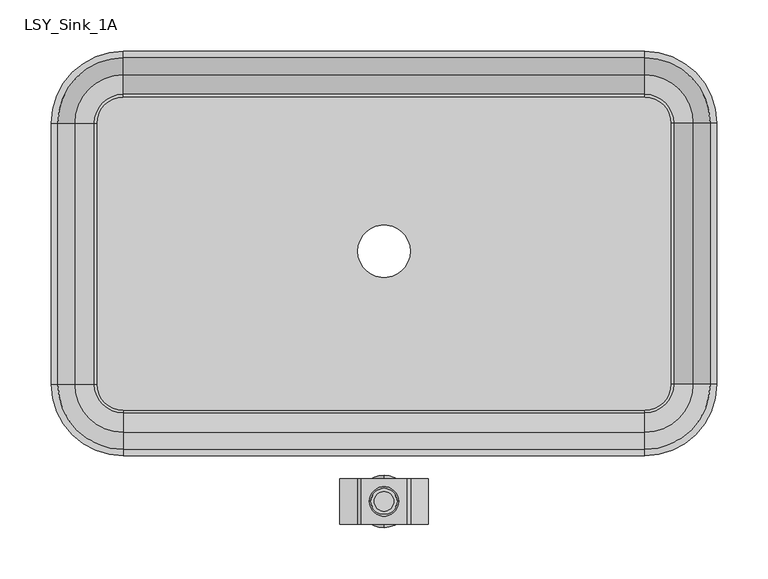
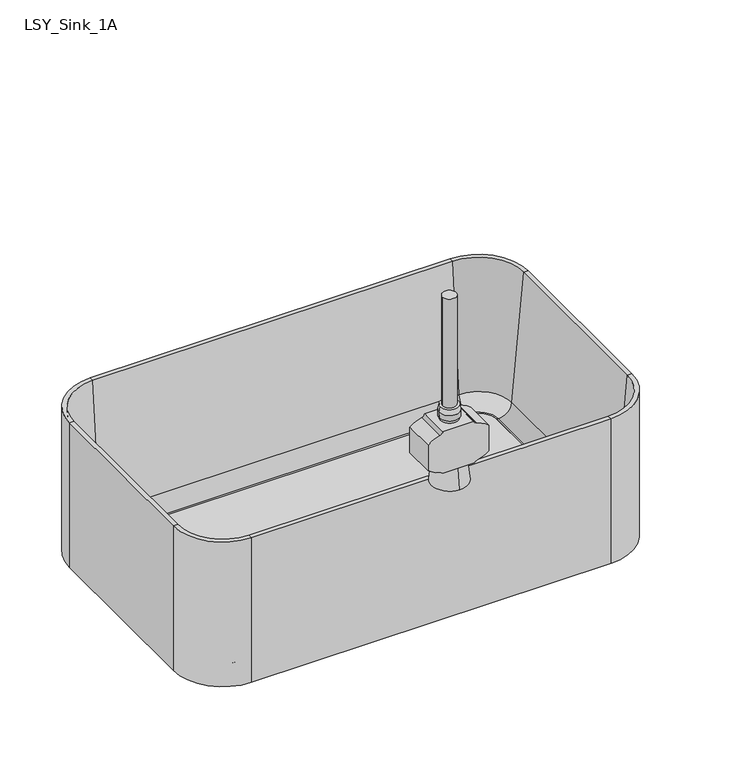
"""IFC4 building model written with IfcOpenShell, lengths in millimetres: flow terminal geometry."""

from ifc_helpers import new_model, si_unit, point, frame, frame_2d, origin, place, context, project, spatial, polyline, circle_curve, ellipse_curve, trimmed, segment, composite_curve, outline, extrude, source, transform, mapped, element, save
from ifc_brep_helpers import plane_surface, cylinder_surface, revolved_surface, advanced_brep


def lsy_sink_1a_83b20bf5(model_context):
    return source(origin(), model_context, "Body", "SolidModel", [
        advanced_brep(
        [(29.9767406, -145.2204011, 1036.6375), (1.4017406, -145.2204011, 1036.6375), (29.9767406, -145.2204011, 1044.575), (1.4017406, -145.2204011, 1044.575), (28.3892406, -145.2204011, 1052.5125), (2.9892406, -145.2204011, 1052.5125)],
        [
            (0, 1, circle_curve(frame((15.6892406, -145.2204011, 1036.6375), z_axis=(0.0, 0.0, -1.0), x_axis=(-1.0, 0.0, 0.0)), 14.2875)),
            (1, 0, circle_curve(frame((15.6892406, -145.2204011, 1036.6375), z_axis=(0.0, 0.0, -1.0), x_axis=(-1.0, 0.0, 0.0)), 14.2875)),
            (0, 2),
            (2, 3, circle_curve(frame((15.6892406, -145.2204011, 1044.575), z_axis=(0.0, 0.0, -1.0), x_axis=(-1.0, 0.0, 0.0)), 14.2875)),
            (3, 1),
            (3, 2, circle_curve(frame((15.6892406, -145.2204011, 1044.575), z_axis=(0.0, 0.0, -1.0), x_axis=(-1.0, 0.0, 0.0)), 14.2875)),
            (4, 5, circle_curve(frame((15.6892406, -145.2204011, 1052.5125), z_axis=(0.0, 0.0, 1.0), x_axis=(-1.0, 0.0, 0.0)), 12.7)),
            (5, 4, circle_curve(frame((15.6892406, -145.2204011, 1052.5125), z_axis=(0.0, 0.0, 1.0), x_axis=(1.0, 0.0, 0.0)), 12.7)),
            (5, 3),
            (2, 4),
        ],
        [
            plane_surface(frame((1.4017406, -145.2204011, 1036.6375), z_axis=(0.0, 0.0, -1.0), x_axis=(0.0, -1.0, 0.0))),
            cylinder_surface(frame((15.6892406, -145.2204011, 1036.6375), z_axis=(0.0, 0.0, 1.0), x_axis=(-1.0, 0.0, 0.0)), 14.2875),
            plane_surface(frame((15.6892406, -145.2204011, 1052.5125), z_axis=(0.0, 0.0, 1.0), x_axis=(0.0, -1.0, 0.0))),
            revolved_surface(polyline([(2.9892406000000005, -145.2204011, 1052.5125), (1.4017406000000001, -145.2204011, 1044.575)]), (15.6892406, -145.2204011, 1116.0125), (0.0, 0.0, -1.0)),
            revolved_surface(polyline([(28.3892406, -145.2204011, 1052.5125), (29.9767406, -145.2204011, 1044.575)]), (15.6892406, -145.2204011, 1116.0125), (0.0, 0.0, -1.0)),
        ],
        [
            (0, [[1, 2]]),
            (1, [[3, 4, 5, -1]]),
            (1, [[-5, 6, -3, -2]]),
            (2, [[7, 8]]),
            (3, [[9, -4, 10, -8]]),
            (4, [[-10, -6, -9, -7]]),
        ],
    ),
        extrude(outline(composite_curve([segment(trimmed(circle_curve(frame_2d((1032.4850081, -11.5210533)), 5.0159468), [point((1031.875, -6.5423374))], [point((1027.6006878, -10.3795029))], True, "CARTESIAN"), True, "CONTINUOUS"), segment(trimmed(circle_curve(frame_2d((988.3820284, -1.2134213)), 40.2755546), [point((1027.6006878, -10.3795029))], [point((1019.175, -27.1732594))], False, "CARTESIAN"), True, "CONTINUOUS"), segment(polyline([(1019.175, -27.1732594), (981.075, -27.1732594)]), True, "CONTINUOUS"), segment(trimmed(circle_curve(frame_2d((1011.8679716, -1.2134213)), 40.2755546), [point((981.075, -27.1732594))], [point((972.6493122, -10.3795029))], False, "CARTESIAN"), True, "CONTINUOUS"), segment(trimmed(circle_curve(frame_2d((966.5200388, -11.8120204)), 6.2944498), [point((972.6493122, -10.3795029))], [point((969.9625, -6.5423374))], True, "CARTESIAN"), True, "CONTINUOUS"), segment(polyline([(969.9625, -6.5423374), (969.9625, 37.9208185)]), True, "CONTINUOUS"), segment(trimmed(circle_curve(frame_2d((966.5200388, 43.1905016)), 6.2944498), [point((969.9625, 37.9208185))], [point((972.6493122, 41.757984))], True, "CARTESIAN"), True, "CONTINUOUS"), segment(trimmed(circle_curve(frame_2d((1011.8679716, 32.5919024)), 40.2755546), [point((972.6493122, 41.757984))], [point((981.075, 58.5517406))], False, "CARTESIAN"), True, "CONTINUOUS"), segment(polyline([(981.075, 58.5517406), (1019.175, 58.5517406)]), True, "CONTINUOUS"), segment(trimmed(circle_curve(frame_2d((988.3820284, 32.5919024)), 40.2755546), [point((1019.175, 58.5517406))], [point((1027.6006878, 41.757984))], False, "CARTESIAN"), True, "CONTINUOUS"), segment(trimmed(circle_curve(frame_2d((1032.4850081, 42.8995344)), 5.0159468), [point((1027.6006878, 41.757984))], [point((1031.875, 37.9208185))], True, "CARTESIAN"), True, "CONTINUOUS"), segment(polyline([(1031.875, 37.9208185), (1031.875, -6.5423374)]), True, "CONTINUOUS")], self_intersect=False)), frame((0.0, -167.4154143, 0.0), z_axis=(0.0, 1.0, 0.0), x_axis=(0.0, 0.0, 1.0)), (0.0, 0.0, 1.0), 44.3900263),
        advanced_brep(
        [(15.6892406, -122.9654143, 969.9625), (15.6892406, -167.4154143, 969.9625), (15.6892406, -119.7904143, 939.8), (15.6892406, -170.5904143, 939.8)],
        [
            (0, 1, circle_curve(frame((15.6892406, -145.1904143, 969.9625), z_axis=(0.0, 0.0, 1.0), x_axis=(0.0, -1.0, 0.0)), 22.225)),
            (1, 0, circle_curve(frame((15.6892406, -145.1904143, 969.9625), z_axis=(0.0, 0.0, 1.0), x_axis=(0.0, 1.0, 0.0)), 22.225)),
            (2, 3, circle_curve(frame((15.6892406, -145.1904143, 939.8), z_axis=(0.0, 0.0, -1.0), x_axis=(0.0, 1.0, 0.0)), 25.4)),
            (3, 2, circle_curve(frame((15.6892406, -145.1904143, 939.8), z_axis=(0.0, 0.0, -1.0), x_axis=(0.0, -1.0, 0.0)), 25.4)),
            (2, 0),
            (1, 3),
        ],
        [
            plane_surface(frame((15.6892406, -145.1904143, 969.9625), z_axis=(0.0, 0.0, 1.0), x_axis=(1.0, 0.0, 0.0))),
            plane_surface(frame((15.6892406, -145.1904143, 939.8), z_axis=(0.0, 0.0, -1.0), x_axis=(1.0, 0.0, 0.0))),
            revolved_surface(polyline([(15.6892406, -122.96541429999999, 969.9625), (15.6892406, -119.7904143, 939.8)]), (15.6892406, -145.1904143, 1181.1), (0.0, 0.0, -1.0)),
            revolved_surface(polyline([(15.6892406, -167.41541429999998, 969.9625), (15.6892406, -170.5904143, 939.8)]), (15.6892406, -145.1904143, 1181.1), (0.0, 0.0, -1.0)),
        ],
        [
            (0, [[1, 2]]),
            (1, [[3, 4]]),
            (2, [[5, -2, 6, -3]]),
            (3, [[-6, -1, -5, -4]]),
        ],
    ),
        extrude(outline(composite_curve([segment(trimmed(circle_curve(frame_2d((15.6892406, -145.2204011)), 12.7), [point((28.3892406, -145.2204011))], [point((2.9892406, -145.2204011))], False, "CARTESIAN"), True, "CONTINUOUS"), segment(trimmed(circle_curve(frame_2d((15.6892406, -145.2204011)), 12.7), [point((2.9892406, -145.2204011))], [point((28.3892406, -145.2204011))], False, "CARTESIAN"), True, "CONTINUOUS")], self_intersect=False)), frame((0.0, 0.0, 1031.875), z_axis=(0.0, 0.0, 1.0), x_axis=(1.0, 0.0, 0.0)), (0.0, 0.0, 1.0), 4.7625),
        extrude(outline(composite_curve([segment(trimmed(circle_curve(frame_2d((15.6892406, -145.2204011)), 9.525), [point((25.2142406, -145.2204011))], [point((6.1642406, -145.2204011))], False, "CARTESIAN"), True, "CONTINUOUS"), segment(trimmed(circle_curve(frame_2d((15.6892406, -145.2204011)), 9.525), [point((6.1642406, -145.2204011))], [point((25.2142406, -145.2204011))], False, "CARTESIAN"), True, "CONTINUOUS")], self_intersect=False)), frame((0.0, 0.0, 1052.5125), z_axis=(0.0, 0.0, 1.0), x_axis=(1.0, 0.0, 0.0)), (0.0, 0.0, 1.0), 162.7114243),
        extrude(outline(composite_curve([segment(polyline([(269.6892406, -56.3204011), (-238.3107594, -56.3204011)]), True, "CONTINUOUS"), segment(trimmed(circle_curve(frame_2d((-238.3107594, -30.9204011)), 25.4), [point((-238.3107594, -56.3204011))], [point((-263.7107594, -30.9204011))], False, "CARTESIAN"), True, "CONTINUOUS"), segment(polyline([(-263.7107594, -30.9204011), (-263.7107594, 223.0795989)]), True, "CONTINUOUS"), segment(trimmed(circle_curve(frame_2d((-238.3107594, 223.0795989)), 25.4), [point((-263.7107594, 223.0795989))], [point((-238.3107594, 248.4795989))], False, "CARTESIAN"), True, "CONTINUOUS"), segment(polyline([(-238.3107594, 248.4795989), (269.6892406, 248.4795989)]), True, "CONTINUOUS"), segment(trimmed(circle_curve(frame_2d((269.6892406, 223.0795989)), 25.4), [point((269.6892406, 248.4795989))], [point((295.0892406, 223.0795989))], False, "CARTESIAN"), True, "CONTINUOUS"), segment(polyline([(295.0892406, 223.0795989), (295.0892406, -30.9204011)]), True, "CONTINUOUS"), segment(trimmed(circle_curve(frame_2d((269.6892406, -30.9204011)), 25.4), [point((295.0892406, -30.9204011))], [point((269.6892406, -56.3204011))], False, "CARTESIAN"), True, "CONTINUOUS")], self_intersect=False), holes=[composite_curve([segment(trimmed(circle_curve(frame_2d((15.6892406, 98.425)), 25.4), [point((-9.7107594, 98.425))], [point((41.0892406, 98.425))], True, "CARTESIAN"), True, "CONTINUOUS"), segment(trimmed(circle_curve(frame_2d((15.6892406, 98.425)), 25.4), [point((41.0892406, 98.425))], [point((-9.7107594, 98.425))], True, "CARTESIAN"), True, "CONTINUOUS")], self_intersect=False)]), frame((0.0, 0.0, 698.5), z_axis=(0.0, 0.0, 1.0), x_axis=(1.0, 0.0, 0.0)), (0.0, 0.0, 1.0), 9.525),
        advanced_brep(
        [(339.5392406, -30.9204011, 698.5), (339.5392406, -30.9204011, 914.4), (269.6892406, -100.7704011, 914.4), (269.6892406, -100.7704011, 698.5), (295.0892406, -30.9204011, 698.5), (269.6892406, -56.3204011, 698.5), (295.0892406, -30.9204011, 708.025), (269.6892406, -56.3204011, 708.025), (297.6776588, -30.9204011, 708.025), (269.6892406, -58.9088193, 708.025), (316.6551678, -30.9204011, 725.4146831), (269.6892406, -77.8863283, 725.4146831), (333.1892406, -30.9204011, 914.4), (269.6892406, -94.4204011, 914.4), (339.5392406, 223.0795989, 698.5), (339.5392406, 223.0795989, 914.4), (295.0892406, 223.0795989, 698.5), (295.0892406, 223.0795989, 708.025), (297.6776588, 223.0795989, 708.025), (316.6551678, 223.0795989, 725.4146831), (333.1892406, 223.0795989, 914.4), (269.6892406, 292.9295989, 698.5), (269.6892406, 292.9295989, 914.4), (269.6892406, 248.4795989, 698.5), (269.6892406, 248.4795989, 708.025), (269.6892406, 251.0680171, 708.025), (269.6892406, 270.0455261, 725.4146831), (269.6892406, 286.5795989, 914.4), (-238.3107594, 292.9295989, 698.5), (-238.3107594, 292.9295989, 914.4), (-238.3107594, 248.4795989, 698.5), (-238.3107594, 248.4795989, 708.025), (-238.3107594, 251.0680171, 708.025), (-238.3107594, 270.0455261, 725.4146831), (-238.3107594, 286.5795989, 914.4), (-308.1607594, 223.0795989, 698.5), (-308.1607594, 223.0795989, 914.4), (-263.7107594, 223.0795989, 698.5), (-263.7107594, 223.0795989, 708.025), (-266.2991776, 223.0795989, 708.025), (-285.2766866, 223.0795989, 725.4146831), (-301.8107594, 223.0795989, 914.4), (-308.1607594, -30.9204011, 698.5), (-308.1607594, -30.9204011, 914.4), (-263.7107594, -30.9204011, 698.5), (-263.7107594, -30.9204011, 708.025), (-266.2991776, -30.9204011, 708.025), (-285.2766866, -30.9204011, 725.4146831), (-301.8107594, -30.9204011, 914.4), (-238.3107594, -100.7704011, 698.5), (-238.3107594, -100.7704011, 914.4), (-238.3107594, -56.3204011, 698.5), (-238.3107594, -56.3204011, 708.025), (-238.3107594, -58.9088193, 708.025), (-238.3107594, -77.8863283, 725.4146831), (-238.3107594, -94.4204011, 914.4)],
        [
            (0, 1),
            (1, 2, circle_curve(frame((269.6892406, -30.9204011, 914.4), z_axis=(0.0, 0.0, -1.0), x_axis=(0.0, -1.0, 0.0)), 69.85)),
            (2, 3),
            (3, 0, circle_curve(frame((269.6892406, -30.9204011, 698.5), z_axis=(0.0, 0.0, 1.0), x_axis=(0.0, -1.0, 0.0)), 69.85)),
            (4, 0),
            (3, 5),
            (5, 4, circle_curve(frame((269.6892406, -30.9204011, 698.5), z_axis=(0.0, 0.0, 1.0), x_axis=(0.0, -1.0, 0.0)), 25.4)),
            (6, 4),
            (5, 7),
            (7, 6, circle_curve(frame((269.6892406, -30.9204011, 708.025), z_axis=(0.0, 0.0, 1.0), x_axis=(0.0, -1.0, 0.0)), 25.4)),
            (8, 6),
            (7, 9),
            (9, 8, circle_curve(frame((269.6892406, -30.9204011, 708.025), z_axis=(0.0, 0.0, 1.0), x_axis=(0.0, -1.0, 0.0)), 27.9884182)),
            (10, 8, circle_curve(frame((297.6776588, -30.9204011, 727.075), z_axis=(0.0, 1.0, 0.0), x_axis=(1.0, 0.0, 0.0)), 19.05)),
            (9, 11, circle_curve(frame((269.6892406, -58.9088193, 727.075), z_axis=(-1.0, 0.0, 0.0), x_axis=(0.0, -1.0, 0.0)), 19.05)),
            (11, 10, circle_curve(frame((269.6892406, -30.9204011, 725.4146831), z_axis=(0.0, 0.0, 1.0), x_axis=(0.0, -1.0, 0.0)), 46.9659272)),
            (12, 10),
            (11, 13),
            (13, 12, circle_curve(frame((269.6892406, -30.9204011, 914.4), z_axis=(0.0, 0.0, 1.0), x_axis=(0.0, -1.0, 0.0)), 63.5)),
            (1, 12),
            (13, 2),
            (0, 14),
            (14, 15),
            (15, 1),
            (4, 16),
            (16, 14),
            (6, 17),
            (17, 16),
            (8, 18),
            (18, 17),
            (10, 19),
            (19, 18, circle_curve(frame((297.6776588, 223.0795989, 727.075), z_axis=(0.0, 1.0, 0.0), x_axis=(1.0, 0.0, 0.0)), 19.05)),
            (12, 20),
            (20, 19),
            (15, 20),
            (21, 22),
            (22, 15, circle_curve(frame((269.6892406, 223.0795989, 914.4), z_axis=(0.0, 0.0, -1.0), x_axis=(1.0, 0.0, 0.0)), 69.85)),
            (14, 21, circle_curve(frame((269.6892406, 223.0795989, 698.5), z_axis=(0.0, 0.0, 1.0), x_axis=(1.0, 0.0, 0.0)), 69.85)),
            (23, 21),
            (16, 23, circle_curve(frame((269.6892406, 223.0795989, 698.5), z_axis=(0.0, 0.0, 1.0), x_axis=(1.0, 0.0, 0.0)), 25.4)),
            (24, 23),
            (17, 24, circle_curve(frame((269.6892406, 223.0795989, 708.025), z_axis=(0.0, 0.0, 1.0), x_axis=(1.0, 0.0, 0.0)), 25.4)),
            (25, 24),
            (18, 25, circle_curve(frame((269.6892406, 223.0795989, 708.025), z_axis=(0.0, 0.0, 1.0), x_axis=(1.0, 0.0, 0.0)), 27.9884182)),
            (26, 25, circle_curve(frame((269.6892406, 251.0680171, 727.075), z_axis=(-1.0, 0.0, 0.0), x_axis=(0.0, 1.0, 0.0)), 19.05)),
            (19, 26, circle_curve(frame((269.6892406, 223.0795989, 725.4146831), z_axis=(0.0, 0.0, 1.0), x_axis=(1.0, 0.0, 0.0)), 46.9659272)),
            (27, 26),
            (20, 27, circle_curve(frame((269.6892406, 223.0795989, 914.4), z_axis=(0.0, 0.0, 1.0), x_axis=(1.0, 0.0, 0.0)), 63.5)),
            (22, 27),
            (21, 28),
            (28, 29),
            (29, 22),
            (23, 30),
            (30, 28),
            (24, 31),
            (31, 30),
            (25, 32),
            (32, 31),
            (26, 33),
            (33, 32, circle_curve(frame((-238.3107594, 251.0680171, 727.075), z_axis=(-1.0, 0.0, 0.0), x_axis=(0.0, 1.0, 0.0)), 19.05)),
            (27, 34),
            (34, 33),
            (29, 34),
            (35, 36),
            (36, 29, circle_curve(frame((-238.3107594, 223.0795989, 914.4), z_axis=(0.0, 0.0, -1.0), x_axis=(0.0, 1.0, 0.0)), 69.85)),
            (28, 35, circle_curve(frame((-238.3107594, 223.0795989, 698.5), z_axis=(0.0, 0.0, 1.0), x_axis=(0.0, 1.0, 0.0)), 69.85)),
            (37, 35),
            (30, 37, circle_curve(frame((-238.3107594, 223.0795989, 698.5), z_axis=(0.0, 0.0, 1.0), x_axis=(0.0, 1.0, 0.0)), 25.4)),
            (38, 37),
            (31, 38, circle_curve(frame((-238.3107594, 223.0795989, 708.025), z_axis=(0.0, 0.0, 1.0), x_axis=(0.0, 1.0, 0.0)), 25.4)),
            (39, 38),
            (32, 39, circle_curve(frame((-238.3107594, 223.0795989, 708.025), z_axis=(0.0, 0.0, 1.0), x_axis=(0.0, 1.0, 0.0)), 27.9884182)),
            (40, 39, circle_curve(frame((-266.2991776, 223.0795989, 727.075), z_axis=(0.0, -1.0, 0.0), x_axis=(-1.0, 0.0, 0.0)), 19.05)),
            (33, 40, circle_curve(frame((-238.3107594, 223.0795989, 725.4146831), z_axis=(0.0, 0.0, 1.0), x_axis=(0.0, 1.0, 0.0)), 46.9659272)),
            (41, 40),
            (34, 41, circle_curve(frame((-238.3107594, 223.0795989, 914.4), z_axis=(0.0, 0.0, 1.0), x_axis=(0.0, 1.0, 0.0)), 63.5)),
            (36, 41),
            (35, 42),
            (42, 43),
            (43, 36),
            (37, 44),
            (44, 42),
            (38, 45),
            (45, 44),
            (39, 46),
            (46, 45),
            (40, 47),
            (47, 46, circle_curve(frame((-266.2991776, -30.9204011, 727.075), z_axis=(0.0, -1.0, 0.0), x_axis=(-1.0, 0.0, 0.0)), 19.05)),
            (41, 48),
            (48, 47),
            (43, 48),
            (49, 50),
            (50, 43, circle_curve(frame((-238.3107594, -30.9204011, 914.4), z_axis=(0.0, 0.0, -1.0), x_axis=(-1.0, 0.0, 0.0)), 69.85)),
            (42, 49, circle_curve(frame((-238.3107594, -30.9204011, 698.5), z_axis=(0.0, 0.0, 1.0), x_axis=(-1.0, 0.0, 0.0)), 69.85)),
            (51, 49),
            (44, 51, circle_curve(frame((-238.3107594, -30.9204011, 698.5), z_axis=(0.0, 0.0, 1.0), x_axis=(-1.0, 0.0, 0.0)), 25.4)),
            (52, 51),
            (45, 52, circle_curve(frame((-238.3107594, -30.9204011, 708.025), z_axis=(0.0, 0.0, 1.0), x_axis=(-1.0, 0.0, 0.0)), 25.4)),
            (53, 52),
            (46, 53, circle_curve(frame((-238.3107594, -30.9204011, 708.025), z_axis=(0.0, 0.0, 1.0), x_axis=(-1.0, 0.0, 0.0)), 27.9884182)),
            (54, 53, circle_curve(frame((-238.3107594, -58.9088193, 727.075), z_axis=(1.0, 0.0, 0.0), x_axis=(0.0, -1.0, 0.0)), 19.05)),
            (47, 54, circle_curve(frame((-238.3107594, -30.9204011, 725.4146831), z_axis=(0.0, 0.0, 1.0), x_axis=(-1.0, 0.0, 0.0)), 46.9659272)),
            (55, 54),
            (48, 55, circle_curve(frame((-238.3107594, -30.9204011, 914.4), z_axis=(0.0, 0.0, 1.0), x_axis=(-1.0, 0.0, 0.0)), 63.5)),
            (50, 55),
            (49, 3),
            (2, 50),
            (51, 5),
            (52, 7),
            (53, 9),
            (54, 11),
            (55, 13),
        ],
        [
            cylinder_surface(frame((269.6892406, -30.9204011, 0.0), z_axis=(0.0, 0.0, -1.0), x_axis=(0.0, -1.0, 0.0)), 69.85),
            plane_surface(frame((269.6892406, -30.9204011, 698.5), z_axis=(0.0, 0.0, -1.0), x_axis=(0.0, -1.0, 0.0))),
            revolved_surface(polyline([(269.6892406, -56.3204011, 698.5), (269.6892406, -56.3204011, 708.025)]), (269.6892406, -30.9204011, 0.0), (0.0, 0.0, -1.0)),
            plane_surface(frame((269.6892406, -30.9204011, 708.025), z_axis=(0.0, 0.0, 1.0), x_axis=(0.0, -1.0, 0.0))),
            revolved_surface(trimmed(ellipse_curve(frame((269.6892406, -58.9088193, 727.075), z_axis=(-1.0, 0.0, 0.0), x_axis=(0.0, -1.0, 0.0)), 19.05, 19.05), [point((269.6892406, -58.9088193, 708.025))], [point((269.6892406, -77.8863283, 725.4146831))], True, "CARTESIAN"), (269.6892406, -30.9204011, 0.0), (0.0, 0.0, -1.0)),
            revolved_surface(polyline([(269.6892406, -77.8863283, 725.4146831), (269.6892406, -94.4204011, 914.4)]), (269.6892406, -30.9204011, 0.0), (0.0, 0.0, -1.0)),
            plane_surface(frame((269.6892406, -30.9204011, 914.4), z_axis=(0.0, 0.0, 1.0), x_axis=(0.0, -1.0, 0.0))),
            plane_surface(frame((339.5392406, -30.9204011, 914.4), z_axis=(1.0, 0.0, 0.0), x_axis=(0.0, 1.0, 0.0))),
            plane_surface(frame((339.5392406, -30.9204011, 698.5), z_axis=(0.0, 0.0, -1.0), x_axis=(0.0, 1.0, 0.0))),
            plane_surface(frame((295.0892406, -30.9204011, 698.5), z_axis=(-1.0, 0.0, 0.0), x_axis=(0.0, 1.0, 0.0))),
            plane_surface(frame((295.0892406, -30.9204011, 708.025), z_axis=(0.0, 0.0, 1.0), x_axis=(0.0, 1.0, 0.0))),
            revolved_surface(polyline([(316.72765880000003, 223.0795989, 727.075), (316.72765880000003, -30.9204011, 727.075)]), (297.6776588, -30.9204011, 727.075), (0.0, 1.0, 0.0)),
            plane_surface(frame((316.6551678, -30.9204011, 725.4146831), z_axis=(-0.9961946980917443, 0.0, 0.08715574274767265), x_axis=(0.0, 1.0, 0.0))),
            plane_surface(frame((333.1892406, -30.9204011, 914.4), z_axis=(0.0, 0.0, 1.0), x_axis=(0.0, 1.0, 0.0))),
            cylinder_surface(frame((269.6892406, 223.0795989, 0.0), z_axis=(0.0, 0.0, -1.0), x_axis=(1.0, 0.0, 0.0)), 69.85),
            plane_surface(frame((269.6892406, 223.0795989, 698.5), z_axis=(0.0, 0.0, -1.0), x_axis=(1.0, 0.0, 0.0))),
            revolved_surface(polyline([(295.0892406, 223.0795989, 698.5), (295.0892406, 223.0795989, 708.025)]), (269.6892406, 223.0795989, 0.0), (0.0, 0.0, -1.0)),
            plane_surface(frame((269.6892406, 223.0795989, 708.025), z_axis=(0.0, 0.0, 1.0), x_axis=(1.0, 0.0, 0.0))),
            revolved_surface(trimmed(ellipse_curve(frame((297.6776588, 223.0795989, 727.075), z_axis=(0.0, -1.0, 0.0), x_axis=(1.0, 0.0, 0.0)), 19.05, 19.05), [point((297.6776588, 223.0795989, 708.025))], [point((316.6551678, 223.0795989, 725.4146831))], True, "CARTESIAN"), (269.6892406, 223.0795989, 0.0), (0.0, 0.0, -1.0)),
            revolved_surface(polyline([(316.6551678, 223.0795989, 725.4146831), (333.1892406, 223.0795989, 914.4)]), (269.6892406, 223.0795989, 0.0), (0.0, 0.0, -1.0)),
            plane_surface(frame((269.6892406, 223.0795989, 914.4), z_axis=(0.0, 0.0, 1.0), x_axis=(1.0, 0.0, 0.0))),
            plane_surface(frame((269.6892406, 292.9295989, 914.4), z_axis=(0.0, 1.0, 0.0), x_axis=(-1.0, 0.0, 0.0))),
            plane_surface(frame((269.6892406, 292.9295989, 698.5), z_axis=(0.0, 0.0, -1.0), x_axis=(-1.0, 0.0, 0.0))),
            plane_surface(frame((269.6892406, 248.4795989, 698.5), z_axis=(0.0, -1.0, 0.0), x_axis=(-1.0, 0.0, 0.0))),
            plane_surface(frame((269.6892406, 248.4795989, 708.025), z_axis=(0.0, 0.0, 1.0), x_axis=(-1.0, 0.0, 0.0))),
            revolved_surface(polyline([(-238.3107594, 270.1180171, 727.075), (269.6892406, 270.1180171, 727.075)]), (269.6892406, 251.0680171, 727.075), (-1.0, 0.0, 0.0)),
            plane_surface(frame((269.6892406, 270.0455261, 725.4146831), z_axis=(0.0, -0.9961946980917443, 0.08715574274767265), x_axis=(-1.0, 0.0, 0.0))),
            plane_surface(frame((269.6892406, 286.5795989, 914.4), z_axis=(0.0, 0.0, 1.0), x_axis=(-1.0, 0.0, 0.0))),
            cylinder_surface(frame((-238.3107594, 223.0795989, 0.0), z_axis=(0.0, 0.0, -1.0), x_axis=(0.0, 1.0, 0.0)), 69.85),
            plane_surface(frame((-238.3107594, 223.0795989, 698.5), z_axis=(0.0, 0.0, -1.0), x_axis=(0.0, 1.0, 0.0))),
            revolved_surface(polyline([(-238.3107594, 248.4795989, 698.5), (-238.3107594, 248.4795989, 708.025)]), (-238.3107594, 223.0795989, 0.0), (0.0, 0.0, -1.0)),
            plane_surface(frame((-238.3107594, 223.0795989, 708.025), z_axis=(0.0, 0.0, 1.0), x_axis=(0.0, 1.0, 0.0))),
            revolved_surface(trimmed(ellipse_curve(frame((-238.3107594, 251.0680171, 727.075), z_axis=(1.0, 0.0, 0.0), x_axis=(0.0, 1.0, 0.0)), 19.05, 19.05), [point((-238.3107594, 251.0680171, 708.025))], [point((-238.3107594, 270.0455261, 725.4146831))], True, "CARTESIAN"), (-238.3107594, 223.0795989, 0.0), (0.0, 0.0, -1.0)),
            revolved_surface(polyline([(-238.3107594, 270.0455261, 725.4146831), (-238.3107594, 286.5795989, 914.4)]), (-238.3107594, 223.0795989, 0.0), (0.0, 0.0, -1.0)),
            plane_surface(frame((-238.3107594, 223.0795989, 914.4), z_axis=(0.0, 0.0, 1.0), x_axis=(0.0, 1.0, 0.0))),
            plane_surface(frame((-308.1607594, 223.0795989, 914.4), z_axis=(-1.0, 0.0, 0.0), x_axis=(0.0, -1.0, 0.0))),
            plane_surface(frame((-308.1607594, 223.0795989, 698.5), z_axis=(0.0, 0.0, -1.0), x_axis=(0.0, -1.0, 0.0))),
            plane_surface(frame((-263.7107594, 223.0795989, 698.5), z_axis=(1.0, 0.0, 0.0), x_axis=(0.0, -1.0, 0.0))),
            plane_surface(frame((-263.7107594, 223.0795989, 708.025), z_axis=(0.0, 0.0, 1.0), x_axis=(0.0, -1.0, 0.0))),
            revolved_surface(polyline([(-285.3491776, -30.920401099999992, 727.075), (-285.3491776, 223.0795989, 727.075)]), (-266.2991776, 223.0795989, 727.075), (0.0, -1.0, 0.0)),
            plane_surface(frame((-285.2766866, 223.0795989, 725.4146831), z_axis=(0.9961946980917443, 0.0, 0.08715574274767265), x_axis=(0.0, -1.0, 0.0))),
            plane_surface(frame((-301.8107594, 223.0795989, 914.4), z_axis=(0.0, 0.0, 1.0), x_axis=(0.0, -1.0, 0.0))),
            cylinder_surface(frame((-238.3107594, -30.9204011, 0.0), z_axis=(0.0, 0.0, -1.0), x_axis=(-1.0, 0.0, 0.0)), 69.85),
            plane_surface(frame((-238.3107594, -30.9204011, 698.5), z_axis=(0.0, 0.0, -1.0), x_axis=(-1.0, 0.0, 0.0))),
            revolved_surface(polyline([(-263.7107594, -30.9204011, 698.5), (-263.7107594, -30.9204011, 708.025)]), (-238.3107594, -30.9204011, 0.0), (0.0, 0.0, -1.0)),
            plane_surface(frame((-238.3107594, -30.9204011, 708.025), z_axis=(0.0, 0.0, 1.0), x_axis=(-1.0, 0.0, 0.0))),
            revolved_surface(trimmed(ellipse_curve(frame((-266.2991776, -30.9204011, 727.075), z_axis=(0.0, 1.0, 0.0), x_axis=(-1.0, 0.0, 0.0)), 19.05, 19.05), [point((-266.2991776, -30.9204011, 708.025))], [point((-285.2766866, -30.9204011, 725.4146831))], True, "CARTESIAN"), (-238.3107594, -30.9204011, 0.0), (0.0, 0.0, -1.0)),
            revolved_surface(polyline([(-285.2766866, -30.9204011, 725.4146831), (-301.8107594, -30.9204011, 914.4)]), (-238.3107594, -30.9204011, 0.0), (0.0, 0.0, -1.0)),
            plane_surface(frame((-238.3107594, -30.9204011, 914.4), z_axis=(0.0, 0.0, 1.0), x_axis=(-1.0, 0.0, 0.0))),
            plane_surface(frame((-238.3107594, -100.7704011, 914.4), z_axis=(0.0, -1.0, 0.0), x_axis=(1.0, 0.0, 0.0))),
            plane_surface(frame((-238.3107594, -100.7704011, 698.5), z_axis=(0.0, 0.0, -1.0), x_axis=(1.0, 0.0, 0.0))),
            plane_surface(frame((-238.3107594, -56.3204011, 698.5), z_axis=(0.0, 1.0, 0.0), x_axis=(1.0, 0.0, 0.0))),
            plane_surface(frame((-238.3107594, -56.3204011, 708.025), z_axis=(0.0, 0.0, 1.0), x_axis=(1.0, 0.0, 0.0))),
            revolved_surface(polyline([(269.6892406, -77.9588193, 727.075), (-238.3107594, -77.9588193, 727.075)]), (-238.3107594, -58.9088193, 727.075), (1.0, 0.0, 0.0)),
            plane_surface(frame((-238.3107594, -77.8863283, 725.4146831), z_axis=(0.0, 0.9961946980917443, 0.08715574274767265), x_axis=(1.0, 0.0, 0.0))),
            plane_surface(frame((-238.3107594, -94.4204011, 914.4), z_axis=(0.0, 0.0, 1.0), x_axis=(1.0, 0.0, 0.0))),
        ],
        [
            (0, [[1, 2, 3, 4]]),
            (1, [[5, -4, 6, 7]]),
            (2, [[8, -7, 9, 10]]),
            (3, [[11, -10, 12, 13]]),
            (4, [[14, -13, 15, 16]]),
            (5, [[17, -16, 18, 19]]),
            (6, [[20, -19, 21, -2]]),
            (7, [[22, 23, 24, -1]]),
            (8, [[25, 26, -22, -5]]),
            (9, [[27, 28, -25, -8]]),
            (10, [[29, 30, -27, -11]]),
            (11, [[31, 32, -29, -14]]),
            (12, [[33, 34, -31, -17]]),
            (13, [[-24, 35, -33, -20]]),
            (14, [[36, 37, -23, 38]]),
            (15, [[39, -38, -26, 40]]),
            (16, [[41, -40, -28, 42]]),
            (17, [[43, -42, -30, 44]]),
            (18, [[45, -44, -32, 46]]),
            (19, [[47, -46, -34, 48]]),
            (20, [[49, -48, -35, -37]]),
            (21, [[50, 51, 52, -36]]),
            (22, [[53, 54, -50, -39]]),
            (23, [[55, 56, -53, -41]]),
            (24, [[57, 58, -55, -43]]),
            (25, [[59, 60, -57, -45]]),
            (26, [[61, 62, -59, -47]]),
            (27, [[-52, 63, -61, -49]]),
            (28, [[64, 65, -51, 66]]),
            (29, [[67, -66, -54, 68]]),
            (30, [[69, -68, -56, 70]]),
            (31, [[71, -70, -58, 72]]),
            (32, [[73, -72, -60, 74]]),
            (33, [[75, -74, -62, 76]]),
            (34, [[77, -76, -63, -65]]),
            (35, [[78, 79, 80, -64]]),
            (36, [[81, 82, -78, -67]]),
            (37, [[83, 84, -81, -69]]),
            (38, [[85, 86, -83, -71]]),
            (39, [[87, 88, -85, -73]]),
            (40, [[89, 90, -87, -75]]),
            (41, [[-80, 91, -89, -77]]),
            (42, [[92, 93, -79, 94]]),
            (43, [[95, -94, -82, 96]]),
            (44, [[97, -96, -84, 98]]),
            (45, [[99, -98, -86, 100]]),
            (46, [[101, -100, -88, 102]]),
            (47, [[103, -102, -90, 104]]),
            (48, [[105, -104, -91, -93]]),
            (49, [[106, -3, 107, -92]]),
            (50, [[108, -6, -106, -95]]),
            (51, [[109, -9, -108, -97]]),
            (52, [[110, -12, -109, -99]]),
            (53, [[111, -15, -110, -101]]),
            (54, [[112, -18, -111, -103]]),
            (55, [[-107, -21, -112, -105]]),
        ],
    ),
    ])


if __name__ == "__main__":
    model = new_model("IFC4")
    model_context = context("Model", 3, world=origin())
    ifc_project = project(units=[si_unit("LENGTHUNIT", "METRE", prefix="MILLI")], contexts=[model_context])
    site = spatial("IfcSite", under=ifc_project)
    building = spatial("IfcBuilding", under=site)
    placement = place(None, origin())
    lsy_sink_1a_shape = lsy_sink_1a_83b20bf5(model_context)
    element("IfcFlowTerminal", 1, ObjectType="LSY_Sink_1A : 25\"W x 15\"D", at=placement, inside=building, context=model_context, shape_type="MappedRepresentation", body=[
        mapped(lsy_sink_1a_shape, transform((0.0, 0.0, 0.0), x_axis=(1.0, 0.0, 0.0), y_axis=(0.0, 1.0, 0.0), z_axis=(0.0, 0.0, 1.0))),
    ])
    save(model, "model.ifc")
